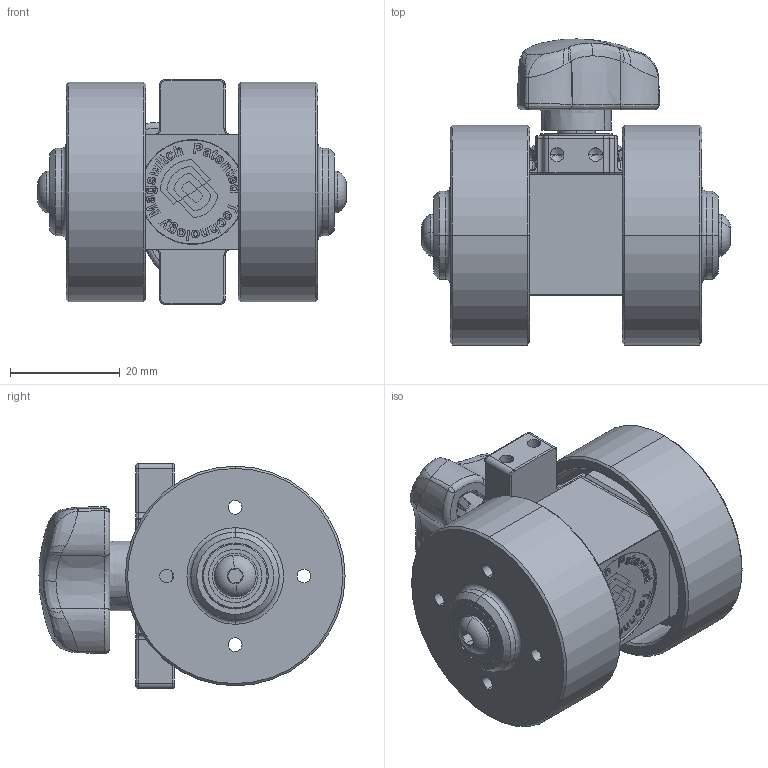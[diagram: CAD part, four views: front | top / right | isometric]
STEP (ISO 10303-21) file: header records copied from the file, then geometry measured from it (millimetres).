
FILE_DESCRIPTION (( 'STEP AP214' ), '1' );
FILE_NAME ('8100401_p.STEP', '2019-07-19T15:19:06', ( '' ), ( '' ), 'SwSTEP 2.0', 'SolidWorks 2018', '' );
FILE_SCHEMA (( 'AUTOMOTIVE_DESIGN' ));
Length unit declared in the file: millimetre
Products named in the file (1): 8100401_p
Bounding box: 56.26 x 55.75 x 41 mm (x, y, z)
Volume: 45122.3 mm3; surface area: 18844 mm2
Topology: 1 solids, 4 shells, 1174 faces, 2992 edges, 1879 vertices
Faces by surface type: plane 392, bspline 374, cylinder 212, cone 116, torus 69, sphere 11
Entity records: 65883 total; most frequent: CARTESIAN_POINT 28109, ORIENTED_EDGE 5944, DIRECTION 4196, EDGE_CURVE 2972, VERTEX_POINT 1879, AXIS2_PLACEMENT_3D 1439, LINE 1318, VECTOR 1318
